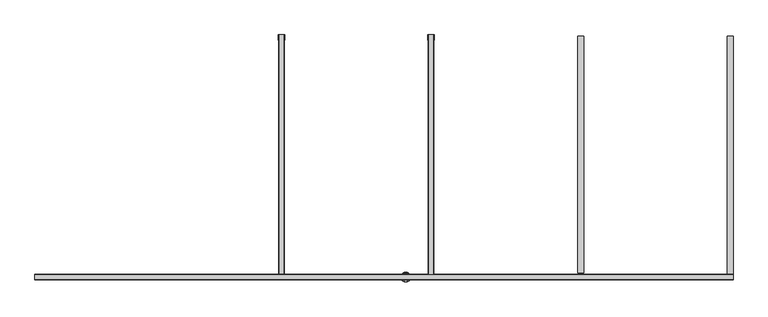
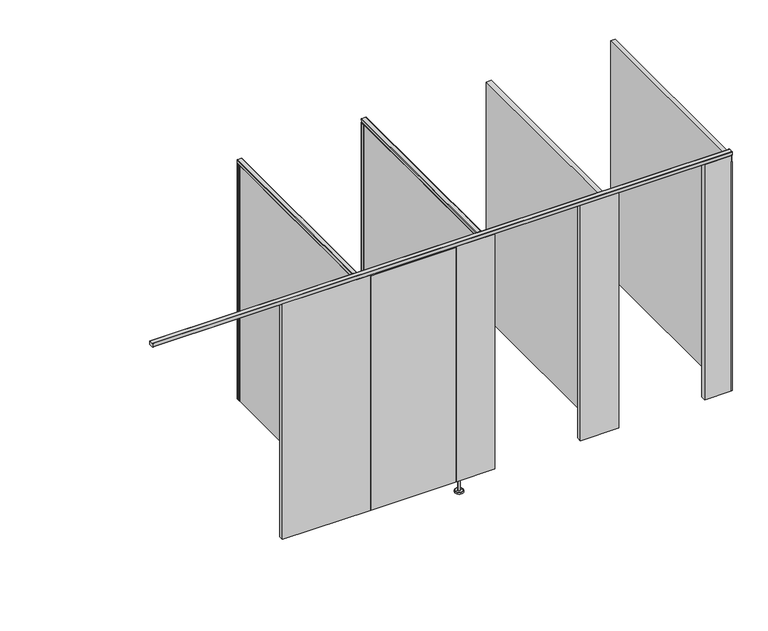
"""IFC4 building model written with IfcOpenShell, lengths in millimetres: proxy geometry, Partition_EuroStyle-Bradley_Corp-ADAStall_3StandardStall-LOFT : Partition_EuroStyle-Bradley_Corp-ADAStall_3StandardStall-LOFT."""

import ifcopenshell
import ifcopenshell.guid

model = None  # the IFC model being written
_history = None  # IfcOwnerHistory: only IFC2X3 demands one
_inside = {}  # id of a spatial element -> (the spatial element, [elements in it])
_under = {}  # id of a project, library or spatial element -> (it, [spatial elements below it])
_declared = {}  # id of a project -> (the project, [libraries it declares])
_typed = {}  # id of a type object -> (the type object, [elements of that type])
_made_of = {}  # id of a material, layer set ... -> (it, [elements and type objects made of it])


def new_model(schema):
    """Start an empty IFC model of exactly this schema.

    Asked for "IFC4X3", IfcOpenShell would pick the latest addendum, in which some entities
    have other attributes; the version numbers below select the first issue.
    IFC2X3 requires an IfcOwnerHistory on every rooted entity: one is made here for all.
    """
    global model, _history
    if schema == "IFC4X3":
        model = ifcopenshell.file(schema_version=(4, 3, 0, 0))
    else:
        model = ifcopenshell.file(schema=schema)
    _inside.clear()
    _under.clear()
    _declared.clear()
    _typed.clear()
    _made_of.clear()
    _history = None
    if model.schema == "IFC2X3":
        org = make("IfcOrganization", Name="unknown")
        user = make(
            "IfcPersonAndOrganization",
            ThePerson=make("IfcPerson", FamilyName="unknown"),
            TheOrganization=org,
        )
        app = make(
            "IfcApplication",
            ApplicationDeveloper=org,
            Version="unknown",
            ApplicationFullName="unknown",
            ApplicationIdentifier="unknown",
        )
        _history = make(
            "IfcOwnerHistory",
            OwningUser=user,
            OwningApplication=app,
            ChangeAction="ADDED",
            CreationDate=0,
        )
    return model


def make(cls, **values):
    """One entity of the class cls with the attributes given. An attribute that is None is left unset."""
    return model.create_entity(
        cls, **{name: value for name, value in values.items() if value is not None}
    )


def rooted(cls, **values):
    """An entity with a GlobalId (a new one), such as an element, a storey or a relation."""
    return make(cls, GlobalId=ifcopenshell.guid.new(), OwnerHistory=_history, **values)


def si_unit(unit_type, name, prefix=None):
    """IfcSIUnit, for example si_unit("LENGTHUNIT", "METRE", prefix="MILLI")."""
    return make("IfcSIUnit", UnitType=unit_type, Prefix=prefix, Name=name)


def assignment(units):
    """IfcUnitAssignment: the units of a project."""
    return None if units is None else make("IfcUnitAssignment", Units=units)


def point(xyz):
    """IfcCartesianPoint."""
    return None if xyz is None else make("IfcCartesianPoint", Coordinates=xyz)


def direction(xyz):
    """IfcDirection."""
    return None if xyz is None else make("IfcDirection", DirectionRatios=xyz)


def frame(location, z_axis=None, x_axis=None):
    """IfcAxis2Placement3D, a coordinate frame: its origin and axes. An axis left out is left unset."""
    return make(
        "IfcAxis2Placement3D",
        Location=point(location),
        Axis=direction(z_axis),
        RefDirection=direction(x_axis),
    )


def frame_2d(location, x_axis=None):
    """IfcAxis2Placement2D, a coordinate frame in the plane: its origin and x axis."""
    return make(
        "IfcAxis2Placement2D", Location=point(location), RefDirection=direction(x_axis)
    )


def origin():
    """The frame at (0, 0, 0) with its axes left unset."""
    return frame((0.0, 0.0, 0.0))


def place(relative_to, where):
    """IfcLocalPlacement: puts the frame where relative to a parent placement (None: the world)."""
    return make(
        "IfcLocalPlacement", PlacementRelTo=relative_to, RelativePlacement=where
    )


def context(
    kind, dimensions, precision=None, world=None, true_north=None, identifier=None
):
    """IfcGeometricRepresentationContext, for example the 3D "Model" context."""
    return make(
        "IfcGeometricRepresentationContext",
        ContextIdentifier=identifier,
        ContextType=kind,
        CoordinateSpaceDimension=dimensions,
        Precision=precision,
        WorldCoordinateSystem=world,
        TrueNorth=true_north,
    )


def project(units=None, contexts=None):
    """IfcProject with its units and contexts."""
    return rooted(
        "IfcProject",
        Name="project",
        RepresentationContexts=contexts,
        UnitsInContext=assignment(units),
    )


def spatial(cls, under=None, at=None, **own):
    """A site, building, storey or space (cls), placed at a placement, below another one or the project."""
    s = rooted(cls, ObjectPlacement=at, **own)
    if under is not None:
        _under.setdefault(under.id(), (under, []))[1].append(s)
    return s


def polyline(points):
    """IfcPolyline through the points."""
    return make("IfcPolyline", Points=[point(p) for p in points])


def circle_curve(where, radius):
    """IfcCircle in the frame where."""
    return make("IfcCircle", Position=where, Radius=radius)


def trimmed(basis, trim1, trim2, sense, master):
    """IfcTrimmedCurve: the piece of a basis curve between two trims."""
    return make(
        "IfcTrimmedCurve",
        BasisCurve=basis,
        Trim1=trim1,
        Trim2=trim2,
        SenseAgreement=sense,
        MasterRepresentation=master,
    )


def segment(curve, same_sense, transition):
    """IfcCompositeCurveSegment."""
    return make(
        "IfcCompositeCurveSegment",
        Transition=transition,
        SameSense=same_sense,
        ParentCurve=curve,
    )


def composite_curve(segments, self_intersect=None):
    """IfcCompositeCurve: segments joined end to end."""
    return make("IfcCompositeCurve", Segments=segments, SelfIntersect=self_intersect)


def outline(outer, holes=None, kind="AREA"):
    """IfcArbitraryClosedProfileDef: a profile drawn as a closed curve; with holes, ...WithVoids."""
    if holes is None:
        return make("IfcArbitraryClosedProfileDef", ProfileType=kind, OuterCurve=outer)
    return make(
        "IfcArbitraryProfileDefWithVoids",
        ProfileType=kind,
        OuterCurve=outer,
        InnerCurves=holes,
    )


def extrude(swept, where, along, depth):
    """IfcExtrudedAreaSolid: the profile swept, set in the frame where, extruded along a direction by depth."""
    return make(
        "IfcExtrudedAreaSolid",
        SweptArea=swept,
        Position=where,
        ExtrudedDirection=direction(along),
        Depth=depth,
    )


def shape(context_of_items, identifier, shape_type, items):
    """IfcShapeRepresentation: the items that make up one representation, for example the "Body"."""
    return make(
        "IfcShapeRepresentation",
        ContextOfItems=context_of_items,
        RepresentationIdentifier=identifier,
        RepresentationType=shape_type,
        Items=items,
    )


def source(mapping_origin, context_of_items, identifier, shape_type, items):
    """IfcRepresentationMap: a shape defined once, which mapped items show again and again."""
    return make(
        "IfcRepresentationMap",
        MappingOrigin=mapping_origin,
        MappedRepresentation=shape(context_of_items, identifier, shape_type, items),
    )


def transform(
    local_origin,
    x_axis=None,
    y_axis=None,
    z_axis=None,
    scale=None,
    scale2=None,
    scale3=None,
    uniform=True,
):
    """IfcCartesianTransformationOperator3D, or its non-uniform kind. x_axis, y_axis, z_axis: its Axis1, 2, 3."""
    if uniform:
        return make(
            "IfcCartesianTransformationOperator3D",
            Axis1=direction(x_axis),
            Axis2=direction(y_axis),
            LocalOrigin=point(local_origin),
            Scale=scale,
            Axis3=direction(z_axis),
        )
    return make(
        "IfcCartesianTransformationOperator3DnonUniform",
        Axis1=direction(x_axis),
        Axis2=direction(y_axis),
        LocalOrigin=point(local_origin),
        Scale=scale,
        Axis3=direction(z_axis),
        Scale2=scale2,
        Scale3=scale3,
    )


def mapped(mapping_source, mapping_target):
    """IfcMappedItem: shows the shape of a source again, moved by a transform."""
    return make(
        "IfcMappedItem", MappingSource=mapping_source, MappingTarget=mapping_target
    )


def made_of(thing, what):
    """Note that an element or type object is made of a material, layer set ...; save() writes the relation."""
    if what is not None:
        _made_of.setdefault(what.id(), (what, []))[1].append(thing)
    return thing


def element(
    cls,
    number,
    at=None,
    inside=None,
    cuts=None,
    type_object=None,
    material=None,
    context=None,
    identifier="Body",
    shape_type=None,
    held_by="IfcProductDefinitionShape",
    body=None,
    shapes=None,
    **own,
):
    """One element of the class cls, such as IfcWall. Its Tag is "e" and its number.

    at: its placement. inside: the storey or other place that contains it. cuts: it is an
    opening in that element (IfcRelVoidsElement). A single representation is given by context,
    identifier, shape_type and body (its items); several are given by shapes. held_by: the class
    of the entity that holds the representations. save() writes the other relations.
    """
    e = rooted(cls, Tag="e%d" % number, ObjectPlacement=at, **own)
    if body is not None:
        shapes = [shape(context, identifier, shape_type, body)]
    if shapes is not None:
        e.Representation = make(held_by, Representations=shapes)
    if inside is not None:
        _inside.setdefault(inside.id(), (inside, []))[1].append(e)
    if cuts is not None:
        rooted(
            "IfcRelVoidsElement", RelatingBuildingElement=cuts, RelatedOpeningElement=e
        )
    if type_object is not None:
        _typed.setdefault(type_object.id(), (type_object, []))[1].append(e)
    return made_of(e, material)


def aggregate(whole, parts):
    """IfcRelAggregates: a whole, such as a stair, and the parts it consists of."""
    return rooted("IfcRelAggregates", RelatingObject=whole, RelatedObjects=parts)


def save(model, path):
    """Write the relations noted so far, then the file.

    IfcRelAggregates (storeys below a building ...), IfcRelContainedInSpatialStructure (elements
    in a storey), IfcRelDefinesByType, IfcRelAssociatesMaterial and IfcRelDeclares: one each for
    every whole, place, type object, material and project.
    """
    for whole, parts in _under.values():
        aggregate(whole, parts)
    for where, things in _inside.values():
        rooted(
            "IfcRelContainedInSpatialStructure",
            RelatedElements=things,
            RelatingStructure=where,
        )
    for kind, things in _typed.values():
        rooted("IfcRelDefinesByType", RelatedObjects=things, RelatingType=kind)
    for what, things in _made_of.values():
        rooted("IfcRelAssociatesMaterial", RelatedObjects=things, RelatingMaterial=what)
    for by, libraries in _declared.values():
        rooted("IfcRelDeclares", RelatingContext=by, RelatedDefinitions=libraries)
    model.write(path)


def plane_surface(at):
    """IfcPlane: the flat surface through the origin of the frame at, square to its z axis."""
    return make("IfcPlane", Position=at)


def cylinder_surface(at, radius):
    """IfcCylindricalSurface: all points at the distance radius from the z axis of the frame at."""
    return make("IfcCylindricalSurface", Position=at, Radius=radius)


def revolved_surface(curve, axis_point, axis_direction):
    """IfcSurfaceOfRevolution: the curve turned about the line through axis_point along axis_direction."""
    return make(
        "IfcSurfaceOfRevolution",
        SweptCurve=make("IfcArbitraryOpenProfileDef", ProfileType="CURVE", Curve=curve),
        AxisPosition=make("IfcAxis1Placement", Location=point(axis_point), Axis=direction(axis_direction)),
    )


def advanced_brep(points, edges, surfaces, faces):
    """IfcAdvancedBrep: a solid bounded by faces that lie on surfaces and meet in shared edges.

    An edge is (start, end): straight between two places in points (the first is 0);
    or (start, end, curve); or (start, end, curve, False) where it runs against its curve.
    A face is (place in surfaces, loops), or (place, loops, False) where it looks against
    its surface's normal. A loop lists edges by number (the first is 1), with a minus sign
    where the edge is run from its end to its start. The first loop is the outer one.
    """
    corners = [point(p) for p in points]
    vertices = [make("IfcVertexPoint", VertexGeometry=c) for c in corners]
    made = []
    for start, end, *more in edges:
        made.append(
            make(
                "IfcEdgeCurve",
                EdgeStart=vertices[start],
                EdgeEnd=vertices[end],
                EdgeGeometry=more[0] if more else make("IfcPolyline", Points=[corners[start], corners[end]]),
                SameSense=more[1] if len(more) > 1 else True,
            )
        )
    hull = []
    for where, loops, *sense in faces:
        bounds = []
        for j, loop in enumerate(loops):
            ring = [make("IfcOrientedEdge", EdgeElement=made[abs(k) - 1], Orientation=k > 0) for k in loop]
            bounds.append(
                make(
                    "IfcFaceOuterBound" if j == 0 else "IfcFaceBound",
                    Bound=make("IfcEdgeLoop", EdgeList=ring),
                    Orientation=True,
                )
            )
        hull.append(make("IfcAdvancedFace", Bounds=bounds, FaceSurface=surfaces[where], SameSense=sense[0] if sense else True))
    return make("IfcAdvancedBrep", Outer=make("IfcClosedShell", CfsFaces=hull))


def specialty_equipment_e9cd40da(model_context):
    return source(origin(), model_context, "Body", "SolidModel", [
        extrude(outline(polyline([(1542.4170903, -1523.9894923), (2197.5201766, -1523.9894923), (2197.5201766, -1560.0098174), (1542.4170903, -1560.0098174), (1542.4170903, -1523.9894923)])), frame((0.0, 0.0, 100.0125), z_axis=(0.0, 0.0, 1.0), x_axis=(1.0, 0.0, 0.0)), (0.0, 0.0, 1.0), 1895.9875),
        extrude(outline(composite_curve([segment(polyline([(2370.3288796, -32.5000002), (2369.8205405, -2.02918)]), True, "CONTINUOUS"), segment(trimmed(circle_curve(frame_2d((2371.8497205, -2.02918)), 2.02918), [point((2369.8205405, -2.02918))], [point((2371.8497205, 0.0))], False, "CARTESIAN"), True, "CONTINUOUS"), segment(polyline([(2371.8497205, 0.0), (2409.7909298, 0.0)]), True, "CONTINUOUS"), segment(trimmed(circle_curve(frame_2d((2409.7909298, -2.02918)), 2.02918), [point((2409.7909298, 0.0))], [point((2411.8201098, -2.02918))], False, "CARTESIAN"), True, "CONTINUOUS"), segment(polyline([(2411.8201098, -2.02918), (2411.3117707, -32.5000002), (2409.8131851, -32.5000002)]), True, "CONTINUOUS"), segment(trimmed(circle_curve(frame_2d((2409.8167525, -31.5009082)), 0.9990984), [point((2409.8131851, -32.5000002))], [point((2409.3430999, -30.6212202))], False, "CARTESIAN"), True, "CONTINUOUS"), segment(polyline([(2409.3430999, -30.6212202), (2409.4642099, -23.3575702)]), True, "CONTINUOUS"), segment(trimmed(circle_curve(frame_2d((2409.9817558, -22.5000551)), 1.0015917), [point((2409.4642099, -23.3575702))], [point((2409.4926587, -21.6260013))], False, "CARTESIAN"), True, "CONTINUOUS"), segment(polyline([(2409.4926587, -21.6260013), (2409.78671, -4.0)]), True, "CONTINUOUS"), segment(trimmed(circle_curve(frame_2d((2407.7870154, -3.9990939)), 1.9996948), [point((2409.78671, -4.0))], [point((2407.7379958, -2.0))], True, "CARTESIAN"), True, "CONTINUOUS"), segment(polyline([(2407.7379958, -2.0), (2373.8536968, -2.0)]), True, "CONTINUOUS"), segment(trimmed(circle_curve(frame_2d((2373.8536968, -4.0002204)), 2.0002204), [point((2373.8536968, -2.0))], [point((2371.8535049, -3.9895469))], True, "CARTESIAN"), True, "CONTINUOUS"), segment(polyline([(2371.8535049, -3.9895469), (2372.1475604, -21.6257602)]), True, "CONTINUOUS"), segment(trimmed(circle_curve(frame_2d((2371.6588945, -22.5000551)), 1.0015917), [point((2372.1475604, -21.6257602))], [point((2372.1764404, -23.3575702))], False, "CARTESIAN"), True, "CONTINUOUS"), segment(polyline([(2372.1764404, -23.3575702), (2372.2975504, -30.6212202)]), True, "CONTINUOUS"), segment(trimmed(circle_curve(frame_2d((2371.8238978, -31.5009082)), 0.9990984), [point((2372.2975504, -30.6212202))], [point((2371.8274652, -32.5000002))], False, "CARTESIAN"), True, "CONTINUOUS"), segment(polyline([(2371.8274652, -32.5000002), (2370.3288796, -32.5000002)]), True, "CONTINUOUS")], self_intersect=False)), frame((0.0, 0.0, 100.0), z_axis=(0.0, 0.0, 1.0), x_axis=(1.0, 0.0, 0.0)), (0.0, 0.0, 1.0), 1905.0),
        extrude(outline(composite_curve([segment(polyline([(1419.918717, -32.5000002), (1419.4103779, -2.02918)]), True, "CONTINUOUS"), segment(trimmed(circle_curve(frame_2d((1421.4395579, -2.02918)), 2.02918), [point((1419.4103779, -2.02918))], [point((1421.4395579, 0.0))], False, "CARTESIAN"), True, "CONTINUOUS"), segment(polyline([(1421.4395579, 0.0), (1459.3807672, 0.0)]), True, "CONTINUOUS"), segment(trimmed(circle_curve(frame_2d((1459.3807672, -2.02918)), 2.02918), [point((1459.3807672, 0.0))], [point((1461.4099473, -2.02918))], False, "CARTESIAN"), True, "CONTINUOUS"), segment(polyline([(1461.4099473, -2.02918), (1460.9016081, -32.5000002), (1459.4030225, -32.5000002)]), True, "CONTINUOUS"), segment(trimmed(circle_curve(frame_2d((1459.4065899, -31.5009082)), 0.9990984), [point((1459.4030225, -32.5000002))], [point((1458.9329373, -30.6212202))], False, "CARTESIAN"), True, "CONTINUOUS"), segment(polyline([(1458.9329373, -30.6212202), (1459.0540473, -23.3575702)]), True, "CONTINUOUS"), segment(trimmed(circle_curve(frame_2d((1459.5715932, -22.5000551)), 1.0015917), [point((1459.0540473, -23.3575702))], [point((1459.0824961, -21.6260013))], False, "CARTESIAN"), True, "CONTINUOUS"), segment(polyline([(1459.0824961, -21.6260013), (1459.3765475, -4.0)]), True, "CONTINUOUS"), segment(trimmed(circle_curve(frame_2d((1457.3768528, -3.9990939)), 1.9996948), [point((1459.3765475, -4.0))], [point((1457.3278332, -2.0))], True, "CARTESIAN"), True, "CONTINUOUS"), segment(polyline([(1457.3278332, -2.0), (1423.4435342, -2.0)]), True, "CONTINUOUS"), segment(trimmed(circle_curve(frame_2d((1423.4435342, -4.0002204)), 2.0002204), [point((1423.4435342, -2.0))], [point((1421.4433424, -3.9895469))], True, "CARTESIAN"), True, "CONTINUOUS"), segment(polyline([(1421.4433424, -3.9895469), (1421.7373979, -21.6257602)]), True, "CONTINUOUS"), segment(trimmed(circle_curve(frame_2d((1421.248732, -22.5000551)), 1.0015917), [point((1421.7373979, -21.6257602))], [point((1421.7662779, -23.3575702))], False, "CARTESIAN"), True, "CONTINUOUS"), segment(polyline([(1421.7662779, -23.3575702), (1421.8873879, -30.6212202)]), True, "CONTINUOUS"), segment(trimmed(circle_curve(frame_2d((1421.4137352, -31.5009082)), 0.9990984), [point((1421.8873879, -30.6212202))], [point((1421.4173026, -32.5000002))], False, "CARTESIAN"), True, "CONTINUOUS"), segment(polyline([(1421.4173026, -32.5000002), (1419.918717, -32.5000002)]), True, "CONTINUOUS")], self_intersect=False)), frame((0.0, 0.0, 100.0), z_axis=(0.0, 0.0, 1.0), x_axis=(1.0, 0.0, 0.0)), (0.0, 0.0, 1.0), 1905.0),
        extrude(outline(composite_curve([segment(polyline([(2032.9666591, 2372.8203701), (2005.7492965, 2373.2741806)]), True, "CONTINUOUS"), segment(trimmed(circle_curve(frame_2d((2005.762, 2374.0360747)), 0.762), [point((2005.7492965, 2373.2741806))], [point((2005.0, 2374.0360747))], False, "CARTESIAN"), True, "CONTINUOUS"), segment(polyline([(2005.0, 2374.0360747), (2005.0, 2407.5733505)]), True, "CONTINUOUS"), segment(trimmed(circle_curve(frame_2d((2005.79375, 2407.5733505)), 0.79375), [point((2005.0, 2407.5733505))], [point((2005.7805172, 2408.3669902))], False, "CARTESIAN"), True, "CONTINUOUS"), segment(polyline([(2005.7805172, 2408.3669902), (2032.9666591, 2408.8202802)]), True, "CONTINUOUS"), segment(trimmed(circle_curve(frame_2d((2033.0000015, 2406.8205597)), 1.9999985), [point((2032.9666591, 2408.8202802))], [point((2035.0, 2406.8205597))], False, "CARTESIAN"), True, "CONTINUOUS"), segment(polyline([(2035.0, 2406.8205597), (2035.0, 2374.8200907)]), True, "CONTINUOUS"), segment(trimmed(circle_curve(frame_2d((2033.0000015, 2374.8200907)), 1.9999985), [point((2035.0, 2374.8200907))], [point((2032.9666591, 2372.8203701))], False, "CARTESIAN"), True, "CONTINUOUS")], self_intersect=False)), frame((0.0, -1524.0, 0.0), z_axis=(0.0, 1.0, 0.0), x_axis=(0.0, 0.0, 1.0)), (0.0, 0.0, 1.0), 1524.0),
        extrude(outline(composite_curve([segment(polyline([(-1523.9996998, 2032.9666591), (-1524.4535103, 2005.7492965)]), True, "CONTINUOUS"), segment(trimmed(circle_curve(frame_2d((-1525.2154044, 2005.762)), 0.762), [point((-1524.4535103, 2005.7492965))], [point((-1525.2154044, 2005.0))], False, "CARTESIAN"), True, "CONTINUOUS"), segment(polyline([(-1525.2154044, 2005.0), (-1558.7526802, 2005.0)]), True, "CONTINUOUS"), segment(trimmed(circle_curve(frame_2d((-1558.7526802, 2005.79375)), 0.79375), [point((-1558.7526802, 2005.0))], [point((-1559.5463199, 2005.7805172))], False, "CARTESIAN"), True, "CONTINUOUS"), segment(polyline([(-1559.5463199, 2005.7805172), (-1559.9996099, 2032.9666591)]), True, "CONTINUOUS"), segment(trimmed(circle_curve(frame_2d((-1557.9998894, 2033.0000015)), 1.9999985), [point((-1559.9996099, 2032.9666591))], [point((-1557.9998894, 2035.0))], False, "CARTESIAN"), True, "CONTINUOUS"), segment(polyline([(-1557.9998894, 2035.0), (-1525.9994204, 2035.0)]), True, "CONTINUOUS"), segment(trimmed(circle_curve(frame_2d((-1525.9994204, 2033.0000015)), 1.9999985), [point((-1525.9994204, 2035.0))], [point((-1523.9996998, 2032.9666591))], False, "CARTESIAN"), True, "CONTINUOUS")], self_intersect=False)), frame((-127.0, 0.0, 0.0), z_axis=(1.0, 0.0, 0.0), x_axis=(0.0, 1.0, 0.0)), (0.0, 0.0, 1.0), 4436.6203251),
        extrude(outline(composite_curve([segment(polyline([(2032.9666591, 1422.4102076), (2005.7492965, 1422.8640181)]), True, "CONTINUOUS"), segment(trimmed(circle_curve(frame_2d((2005.762, 1423.6259122)), 0.762), [point((2005.7492965, 1422.8640181))], [point((2005.0, 1423.6259122))], False, "CARTESIAN"), True, "CONTINUOUS"), segment(polyline([(2005.0, 1423.6259122), (2005.0, 1457.163188)]), True, "CONTINUOUS"), segment(trimmed(circle_curve(frame_2d((2005.79375, 1457.163188)), 0.79375), [point((2005.0, 1457.163188))], [point((2005.7805172, 1457.9568277))], False, "CARTESIAN"), True, "CONTINUOUS"), segment(polyline([(2005.7805172, 1457.9568277), (2032.9666591, 1458.4101176)]), True, "CONTINUOUS"), segment(trimmed(circle_curve(frame_2d((2033.0000015, 1456.4103971)), 1.9999985), [point((2032.9666591, 1458.4101176))], [point((2035.0, 1456.4103971))], False, "CARTESIAN"), True, "CONTINUOUS"), segment(polyline([(2035.0, 1456.4103971), (2035.0, 1424.4099281)]), True, "CONTINUOUS"), segment(trimmed(circle_curve(frame_2d((2033.0000015, 1424.4099281)), 1.9999985), [point((2035.0, 1424.4099281))], [point((2032.9666591, 1422.4102076))], False, "CARTESIAN"), True, "CONTINUOUS")], self_intersect=False)), frame((0.0, -1524.0, 0.0), z_axis=(0.0, 1.0, 0.0), x_axis=(0.0, 0.0, 1.0)), (0.0, 0.0, 1.0), 1524.0),
        advanced_brep(
        [(2220.4453255, -1541.9996549, 150.0000008), (2238.4453248, -1541.9996549, 150.0000008), (2238.4453248, -1541.9996549, 12.0000001), (2220.4453255, -1541.9996549, 12.0000001), (2229.4453251, -1541.9996549, 150.0000008), (2198.4453262, -1541.9996549, 0.0), (2260.4453241, -1541.9996549, 0.0), (2229.4453251, -1541.9996549, 0.0), (2198.4453262, -1541.9996549, 10.0000001), (2260.4453241, -1541.9996549, 10.0000001), (2200.4477381, -1541.9996549, 12.0000001), (2258.4429122, -1541.9996549, 12.0000001)],
        [
            (0, 1, circle_curve(frame((2229.4453251, -1541.9996549, 150.0000008), z_axis=(0.0, 0.0, -1.0), x_axis=(1.0, 0.0, 0.0)), 8.9999997)),
            (1, 2),
            (2, 3, circle_curve(frame((2229.4453251, -1541.9996549, 12.0000001), z_axis=(0.0, 0.0, 1.0), x_axis=(1.0, 0.0, 0.0)), 8.9999997)),
            (3, 0),
            (1, 0, circle_curve(frame((2229.4453251, -1541.9996549, 150.0000008), z_axis=(0.0, 0.0, -1.0), x_axis=(1.0, 0.0, 0.0)), 8.9999997)),
            (3, 2, circle_curve(frame((2229.4453251, -1541.9996549, 12.0000001), z_axis=(0.0, 0.0, 1.0), x_axis=(1.0, 0.0, 0.0)), 8.9999997)),
            (4, 1),
            (0, 4),
            (5, 6, circle_curve(frame((2229.4453251, -1541.9996549, 0.0), z_axis=(0.0, 0.0, -1.0), x_axis=(1.0, 0.0, 0.0)), 30.9999989)),
            (6, 7),
            (7, 5),
            (6, 5, circle_curve(frame((2229.4453251, -1541.9996549, 0.0), z_axis=(0.0, 0.0, -1.0), x_axis=(1.0, 0.0, 0.0)), 30.9999989)),
            (8, 9, circle_curve(frame((2229.4453251, -1541.9996549, 10.0000001), z_axis=(0.0, 0.0, -1.0), x_axis=(1.0, 0.0, 0.0)), 30.9999989)),
            (9, 6),
            (5, 8),
            (9, 8, circle_curve(frame((2229.4453251, -1541.9996549, 10.0000001), z_axis=(0.0, 0.0, -1.0), x_axis=(1.0, 0.0, 0.0)), 30.9999989)),
            (10, 11, circle_curve(frame((2229.4453251, -1541.9996549, 12.0000001), z_axis=(0.0, 0.0, -1.0), x_axis=(1.0, 0.0, 0.0)), 28.997587)),
            (11, 9),
            (8, 10),
            (11, 10, circle_curve(frame((2229.4453251, -1541.9996549, 12.0000001), z_axis=(0.0, 0.0, -1.0), x_axis=(1.0, 0.0, 0.0)), 28.997587)),
            (2, 11),
            (10, 3),
        ],
        [
            cylinder_surface(frame((2229.4453251, -1541.9996549, 0.0), z_axis=(0.0, 0.0, 1.0), x_axis=(1.0, 0.0, 0.0)), 8.9999997),
            plane_surface(frame((2229.4453251, -1541.9996549, 150.0000008), z_axis=(0.0, 0.0, 1.0), x_axis=(1.0, 0.0, 0.0))),
            plane_surface(frame((2229.4453251, -1541.9996549, 0.0), z_axis=(0.0, 0.0, -1.0), x_axis=(1.0, 0.0, 0.0))),
            cylinder_surface(frame((2229.4453251, -1541.9996549, 0.0), z_axis=(0.0, 0.0, 1.0), x_axis=(1.0, 0.0, 0.0)), 30.9999989),
            revolved_surface(polyline([(2260.4453241, -1541.9996549, 10.0000001), (2258.4429122, -1541.9996549, 12.0000001)]), (2229.4453251, -1541.9996549, 0.0), (0.0, 0.0, 1.0)),
            plane_surface(frame((2229.4453251, -1541.9996549, 12.0000001), z_axis=(0.0, 0.0, 1.0), x_axis=(1.0, 0.0, 0.0))),
        ],
        [
            (0, [[1, 2, 3, 4]]),
            (0, [[5, -4, 6, -2]]),
            (1, [[7, -1, 8]]),
            (1, [[-8, -5, -7]]),
            (2, [[9, 10, 11]]),
            (2, [[12, -11, -10]]),
            (3, [[13, 14, -9, 15]]),
            (3, [[16, -15, -12, -14]]),
            (4, [[17, 18, -13, 19]]),
            (4, [[20, -19, -16, -18]]),
            (5, [[-3, 21, -17, 22]]),
            (5, [[-6, -22, -20, -21]]),
        ],
    ),
        extrude(outline(polyline([(1542.4170903, -1524.0), (1542.4170903, -1559.9996549), (866.1, -1559.9996549), (866.1, -1524.0), (1542.4170903, -1524.0)])), frame((0.0, 0.0, 100.0), z_axis=(0.0, 0.0, 1.0), x_axis=(1.0, 0.0, 0.0)), (0.0, 0.0, 1.0), 1905.0),
        extrude(outline(polyline([(2492.8170903, -1524.0), (2492.8170903, -1559.9996549), (2197.5201766, -1559.9996549), (2197.5201766, -1524.0), (2492.8170903, -1524.0)])), frame((0.0, 0.0, 100.0), z_axis=(0.0, 0.0, 1.0), x_axis=(1.0, 0.0, 0.0)), (0.0, 0.0, 1.0), 1905.0),
        extrude(outline(polyline([(3443.2170903, -1524.0), (3443.2170903, -1559.9996549), (3147.9201766, -1559.9996549), (3147.9201766, -1524.0), (3443.2170903, -1524.0)])), frame((0.0, 0.0, 100.0), z_axis=(0.0, 0.0, 1.0), x_axis=(1.0, 0.0, 0.0)), (0.0, 0.0, 1.0), 1905.0),
        extrude(outline(polyline([(4309.6203251, -1555.2473174), (4309.6203251, -1559.9996099), (4304.8578251, -1559.9996099), (4304.8578251, -1555.2473174), (4309.6203251, -1555.2473174)])), frame((0.0, 0.0, 100.0), z_axis=(0.0, 0.0, 1.0), x_axis=(1.0, 0.0, 0.0)), (0.0, 0.0, 1.0), 1855.0),
        extrude(outline(polyline([(4098.3201766, -1524.0), (4273.6105077, -1524.0), (4304.8578251, -1555.2473174), (4304.8578251, -1559.9996549), (4098.3201766, -1559.9996549), (4098.3201766, -1524.0)])), frame((0.0, 0.0, 100.0), z_axis=(0.0, 0.0, 1.0), x_axis=(1.0, 0.0, 0.0)), (0.0, 0.0, 1.0), 1905.0),
        extrude(outline(polyline([(4273.6203251, -1524.0098174), (4273.6203251, -9.9993891), (4309.6203251, -9.9993891), (4309.6203251, -1555.2473174), (4304.8578251, -1555.2473174), (4273.6203251, -1524.0098174)])), frame((0.0, 0.0, 100.0), z_axis=(0.0, 0.0, 1.0), x_axis=(1.0, 0.0, 0.0)), (0.0, 0.0, 1.0), 1905.0),
        extrude(outline(polyline([(3323.2203251, -1514.0), (3323.2203251, -9.9993891), (3359.2203251, -9.9993891), (3359.2203251, -1514.0), (3323.2203251, -1514.0)])), frame((0.0, 0.0, 100.0), z_axis=(0.0, 0.0, 1.0), x_axis=(1.0, 0.0, 0.0)), (0.0, 0.0, 1.0), 1905.0),
        extrude(outline(polyline([(2372.8203251, -1514.0), (2372.8203251, -9.9993891), (2408.8203251, -9.9993891), (2408.8203251, -1514.0), (2372.8203251, -1514.0)])), frame((0.0, 0.0, 100.0), z_axis=(0.0, 0.0, 1.0), x_axis=(1.0, 0.0, 0.0)), (0.0, 0.0, 1.0), 1905.0),
        extrude(outline(polyline([(1422.4, -1524.0), (1422.4, -9.9993891), (1458.4203251, -9.9993891), (1458.4203251, -1524.0), (1422.4, -1524.0)])), frame((0.0, 0.0, 100.0), z_axis=(0.0, 0.0, 1.0), x_axis=(1.0, 0.0, 0.0)), (0.0, 0.0, 1.0), 1905.0),
    ])


if __name__ == "__main__":
    model = new_model("IFC4")
    model_context = context("Model", 3, world=origin())
    ifc_project = project(units=[si_unit("LENGTHUNIT", "METRE", prefix="MILLI")], contexts=[model_context])
    site = spatial("IfcSite", under=ifc_project)
    building = spatial("IfcBuilding", under=site)
    placement = place(None, origin())
    specialty_equipment_shape = specialty_equipment_e9cd40da(model_context)
    element("IfcBuildingElementProxy", 1, Name="Partition_EuroStyle-Bradley_Corp-ADAStall_3StandardStall-LOFT : Partition_EuroStyle-Bradley_Corp-ADAStall_3StandardStall-LOFT", ObjectType="Partition_EuroStyle-Bradley_Corp-ADAStall_3StandardStall-LOFT : Partition_EuroStyle-Bradley_Corp-ADAStall_3StandardStall-LOFT", at=placement, inside=building, context=model_context, shape_type="MappedRepresentation", body=[
        mapped(specialty_equipment_shape, transform((0.0, 0.0, 0.0), x_axis=(1.0, 0.0, 0.0), y_axis=(0.0, 1.0, 0.0), z_axis=(0.0, 0.0, 1.0))),
    ])
    save(model, "model.ifc")
